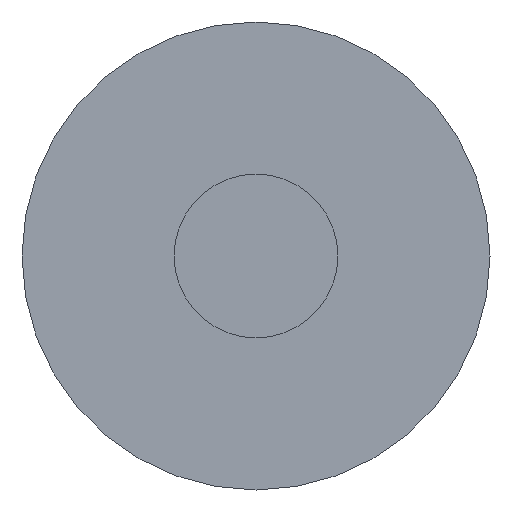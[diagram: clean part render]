
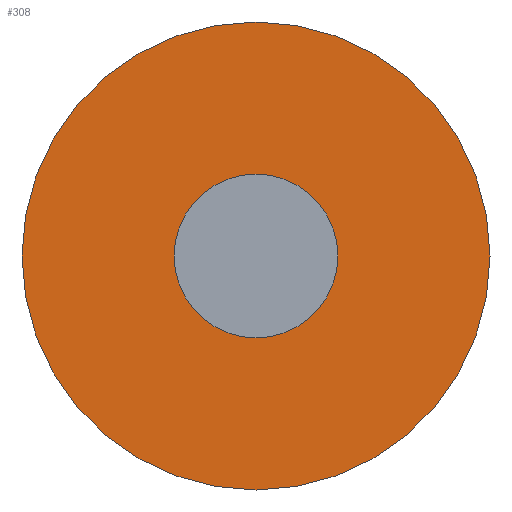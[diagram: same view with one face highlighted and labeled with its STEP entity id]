
A CAD part, left-side view. The second image highlights one B-rep face of the part: STEP entity #308.
In plain terms, the highlighted planar face has unit normal (-1, 0, 0).
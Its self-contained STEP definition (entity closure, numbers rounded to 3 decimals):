
#29=CARTESIAN_POINT('',(25.,0.,0.));
#30=DIRECTION('',(-1.,0.,0.));
#31=DIRECTION('',(0.,1.,0.));
#32=AXIS2_PLACEMENT_3D('',#29,#30,#31);
#34=CARTESIAN_POINT('',(25.,0.,0.));
#35=DIRECTION('',(1.,0.,0.));
#36=DIRECTION('',(0.,1.,0.));
#37=AXIS2_PLACEMENT_3D('',#34,#35,#36);
#39=CARTESIAN_POINT('',(25.,0.,0.));
#40=DIRECTION('',(1.,0.,0.));
#41=DIRECTION('',(0.,1.,0.));
#42=AXIS2_PLACEMENT_3D('',#39,#40,#41);
#44=CARTESIAN_POINT('',(25.,0.,0.));
#45=DIRECTION('',(-1.,0.,0.));
#46=DIRECTION('',(0.,1.,0.));
#47=AXIS2_PLACEMENT_3D('',#44,#45,#46);
#200=CARTESIAN_POINT('',(25.,30.,0.));
#202=VERTEX_POINT('',#200);
#204=CARTESIAN_POINT('',(25.,-30.,0.));
#206=VERTEX_POINT('',#204);
#207=CARTESIAN_POINT('',(25.,10.5,0.));
#208=CARTESIAN_POINT('',(25.,-10.5,0.));
#209=VERTEX_POINT('',#207);
#210=VERTEX_POINT('',#208);
#293=CARTESIAN_POINT('',(25.,0.,0.));
#294=DIRECTION('',(-1.,0.,0.));
#295=DIRECTION('',(0.,1.,0.));
#296=AXIS2_PLACEMENT_3D('',#293,#294,#295);
#297=PLANE('',#296);
#298=ORIENTED_EDGE('',*,*,#275,.T.);
#299=ORIENTED_EDGE('',*,*,#286,.F.);
#300=EDGE_LOOP('',(#298,#299));
#301=FACE_OUTER_BOUND('',#300,.F.);
#303=ORIENTED_EDGE('',*,*,#302,.T.);
#305=ORIENTED_EDGE('',*,*,#304,.F.);
#306=EDGE_LOOP('',(#303,#305));
#307=FACE_BOUND('',#306,.F.);
#308=ADVANCED_FACE('',(#301,#307),#297,.T.);
#33=CIRCLE('',#32,10.5);
#38=CIRCLE('',#37,10.5);
#43=CIRCLE('',#42,30.);
#48=CIRCLE('',#47,30.);
#275=EDGE_CURVE('',#202,#206,#43,.T.);
#286=EDGE_CURVE('',#202,#206,#48,.T.);
#302=EDGE_CURVE('',#209,#210,#33,.T.);
#304=EDGE_CURVE('',#209,#210,#38,.T.);
